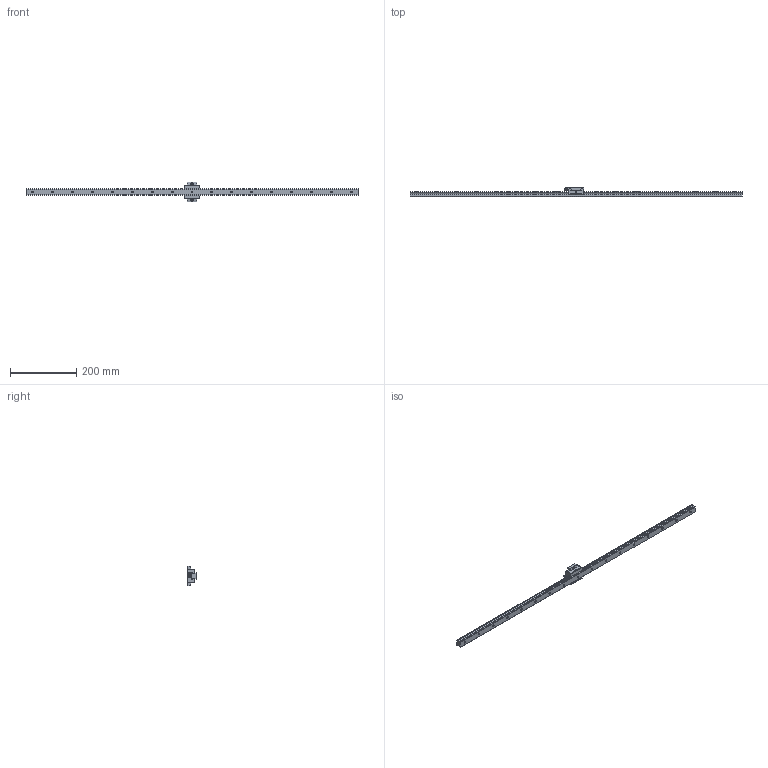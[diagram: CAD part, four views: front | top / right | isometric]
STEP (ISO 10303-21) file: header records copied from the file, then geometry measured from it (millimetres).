
FILE_DESCRIPTION(/* description */ ('STEP AP214'),/* implementation_level */ '2;1');
FILE_NAME(/* name */ 'SSR20XSB1SS-1000L_G20_0_B-M6F_476-15_0_0_0',/* time_stamp */ '2023-08-10T09:17:46+02:00',/* author */ ('License CC BY-ND 4.0'),/* organization */ ('CADENAS'),/* preprocessor_version */ 'ST-DEVELOPER v19.3',/* originating_system */ 'PARTsolutions',/* authorisation */ ' ');
FILE_SCHEMA (('AUTOMOTIVE_DESIGN {1 0 10303 214 3 1 1}'));
Length unit declared in the file: millimetre
Products named in the file (4): SSR20XSB1SS-1000L_G20_0_B-M6F_476-15_0_0_0_; B-M6F-SSR_grease_nipple_joint; SSR20XSBSSB-M6F Slide15-35; SSR20XSB100020 Track
Assembly tree (3 placements, depth 2):
  SSR20XSB1SS-1000L_G20_0_B-M6F_476-15_0_0_0_
    B-M6F-SSR_grease_nipple_joint
    SSR20XSBSSB-M6F Slide15-35
    SSR20XSB100020 Track
Bounding box: 1000 x 28 x 59 mm (x, y, z)
Volume: 304813.2 mm3; surface area: 91362.9 mm2
Topology: 3 solids, 3 shells, 240 faces, 600 edges, 389 vertices
Faces by surface type: plane 162, cylinder 60, cone 13, sphere 3, torus 2
Full cylindrical faces by diameter (mm): 3 x4, 4.917 x2, 5.5 x2, 6 x18, 8 x1, 9.5 x17
Entity records: 6995 total; most frequent: CARTESIAN_POINT 1279, DIRECTION 1148, ORIENTED_EDGE 1068, EDGE_CURVE 534, AXIS2_PLACEMENT_3D 396, VERTEX_POINT 381, FACE_BOUND 359, EDGE_LOOP 357
